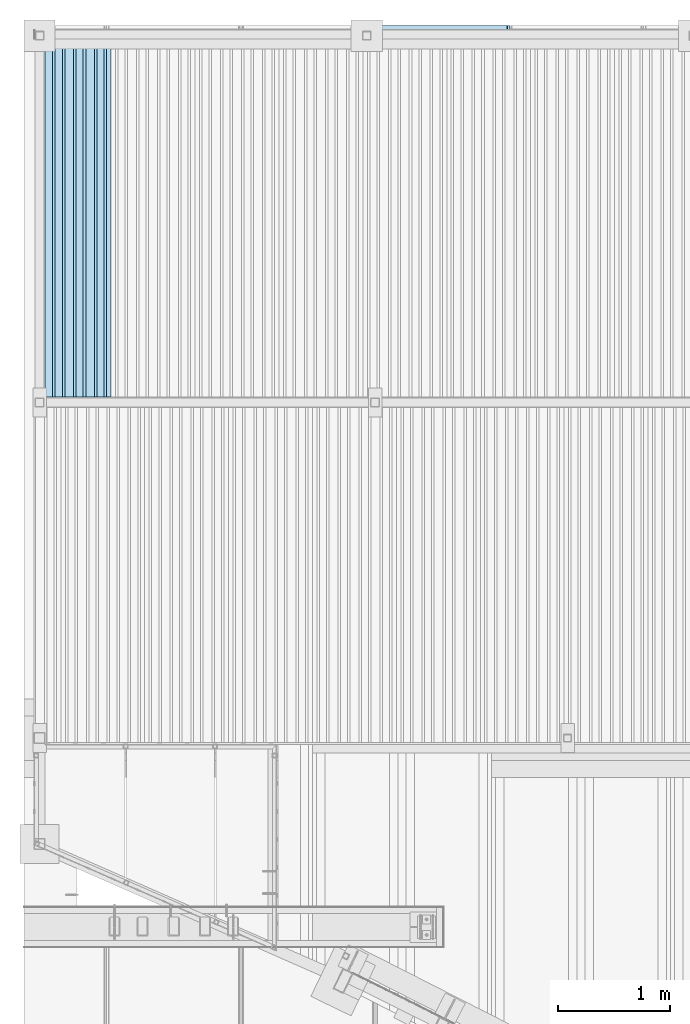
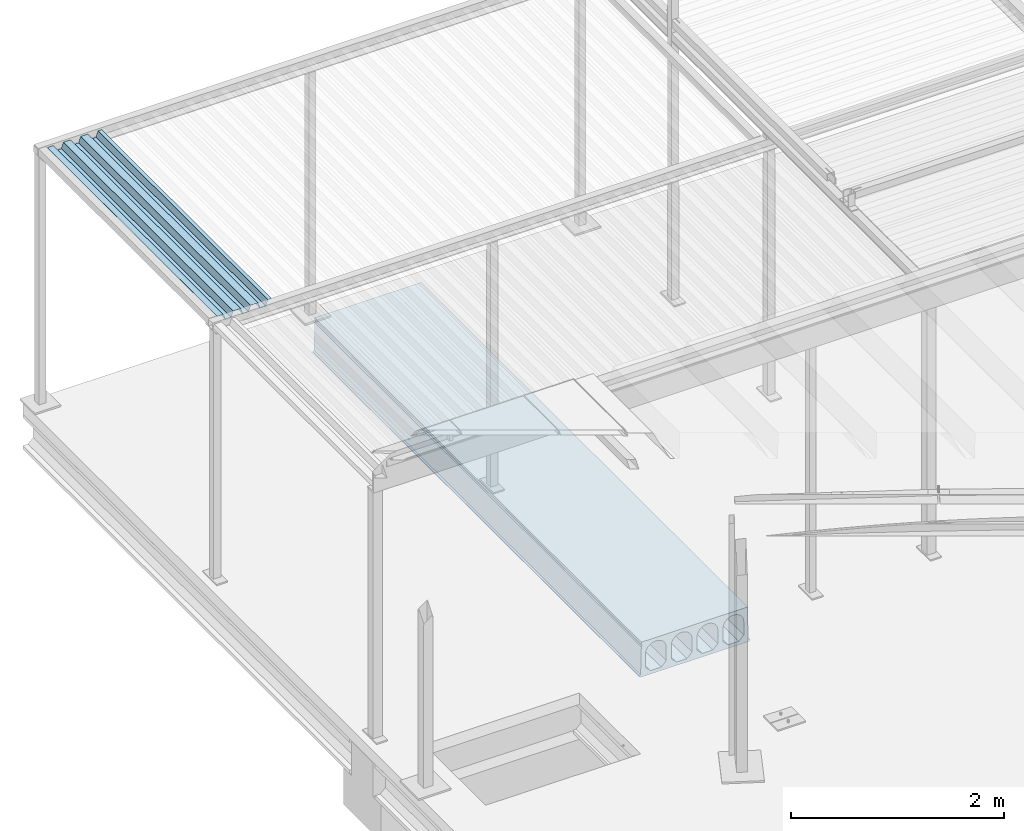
# One storey, part 80 of 98: 2 slabs.
"""IFC2X3 building model written with IfcOpenShell, lengths in millimetres."""

from ifc_helpers import new_model, entity, si_unit, converted_unit, derived_unit, direction, frame, origin_with_axes, place, context, subcontext, project, spatial, faceted_brep, material, type_object, element, save


model = new_model("IFC2X3")

# Units and contexts
model_context = context("Model", 3, precision=0.01, world=frame((0.0, 4.29681676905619e-09, 0.0)), true_north=direction((4.01073788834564e-13, 1.0)))
plan_context = context("Plan", 3, precision=0.01, world=frame((0.0, 4.29681676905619e-09, 0.0)), true_north=direction((4.01073788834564e-13, 1.0)))
body_context = subcontext(model_context, "Body", "Model", "MODEL_VIEW")
ifc_project = project(units=[converted_unit("PLANEANGLEUNIT", "DEGREE", entity("IfcPositiveLengthMeasure", 0.0174532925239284), si_unit("PLANEANGLEUNIT", "RADIAN"), dimensions=[0, 0, 0, 0, 0, 0, 0]), si_unit("AREAUNIT", "SQUARE_METRE"), si_unit("LENGTHUNIT", "METRE", prefix="MILLI"), si_unit("MASSUNIT", "GRAM", prefix="KILO"), si_unit("POWERUNIT", "WATT"), si_unit("PRESSUREUNIT", "PASCAL"), si_unit("FORCEUNIT", "NEWTON", prefix="KILO"), si_unit("ELECTRICCURRENTUNIT", "AMPERE"), si_unit("THERMODYNAMICTEMPERATUREUNIT", "DEGREE_CELSIUS"), si_unit("TIMEUNIT", "SECOND"), si_unit("VOLUMEUNIT", "CUBIC_METRE"), derived_unit("LINEARVELOCITYUNIT", [(si_unit("LENGTHUNIT", "METRE"), 1), (si_unit("TIMEUNIT", "SECOND"), -1)]), derived_unit("VOLUMETRICFLOWRATEUNIT", [(si_unit("VOLUMEUNIT", "CUBIC_METRE"), 1), (si_unit("TIMEUNIT", "SECOND"), -1)]), derived_unit("THERMALTRANSMITTANCEUNIT", [(si_unit("POWERUNIT", "WATT"), 1), (si_unit("THERMODYNAMICTEMPERATUREUNIT", "KELVIN"), -1), (si_unit("AREAUNIT", "SQUARE_METRE"), -1)])], contexts=[model_context, plan_context])

# Site, building, storey
site_placement = place(None, frame((0.0, -4.29681676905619e-09, 0.0), z_axis=(0.0, 0.0, 1.0), x_axis=(1.0, 0.0, 0.0)))
site = spatial("IfcSite", under=ifc_project, at=site_placement, Name="Gardermoen", CompositionType="ELEMENT")
building_placement = place(site_placement, frame((0.0, 4.29681676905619e-09, 0.0), z_axis=(0.0, 0.0, 1.0), x_axis=(1.0, 0.0, 0.0)))
building = spatial("IfcBuilding", under=site, at=building_placement, Name="TS", CompositionType="ELEMENT")
storey_placement = place(building_placement, origin_with_axes())
storey = spatial("IfcBuildingStorey", under=building, at=storey_placement, Name="D", CompositionType="ELEMENT", Elevation=0.0)

# Slabs
slab_type_1 = type_object("IfcSlabType", Name="HD400", PredefinedType="NOTDEFINED")
slab_1_placement = place(storey_placement, frame((517599.999413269, 414739.991879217, 203600.0), z_axis=(0.0, 0.0, 1.0), x_axis=(0.0, 1.0, 0.0)))
element("IfcSlab", 1, at=slab_1_placement, inside=storey, type_object=slab_type_1, Name="HULLDEKKE", ObjectType="HD400", PredefinedType="FLOOR", context=body_context, shape_type="Brep", body=[
    faceted_brep([(6130.19957419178, 600.0, -190.0), (6130.19957419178, 600.0, -180.0), (0.0, 600.0, -180.0), (0.0, 600.0, -190.0), (6130.19957419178, 585.0, -170.0), (0.0, 585.0, -170.0), (6130.19957419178, 577.5, 145.0), (0.0, 577.5, 145.0), (6130.19957419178, 570.0, 160.0), (0.0, 570.0, 160.0), (6130.19957419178, 577.5, 175.0), (0.0, 577.5, 175.0), (6130.19957419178, 577.5, 200.0), (0.0, 577.5, 200.0), (6130.19957419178, -577.5, 200.0), (0.0, -577.5, 200.0), (6130.19957419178, -577.5, 175.0), (0.0, -577.5, 175.0), (6130.19957419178, -570.0, 160.0), (0.0, -570.0, 160.0), (6130.19957419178, -577.5, 145.0), (0.0, -577.5, 145.0), (6130.19957419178, -585.0, -170.0), (0.0, -585.0, -170.0), (6130.19957419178, -600.0, -180.0), (0.0, -600.0, -180.0), (6130.19957419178, -600.0, -190.0), (0.0, -600.0, -190.0), (6130.19957419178, -583.380004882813, -200.0), (0.0, -583.380004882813, -200.0), (6130.19957419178, 583.380004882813, -200.0), (0.0, 583.380004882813, -200.0), (6130.19957419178, -362.5, -160.0), (6130.19957419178, -477.5, -160.0), (0.0, -477.5, -160.0), (0.0, -362.5, -160.0), (6130.19957419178, -532.5, -105.0), (0.0, -532.5, -105.0), (6130.19957419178, -532.5, 47.5), (0.0, -532.5, 47.5), (6130.19957419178, -532.115755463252, 56.7901763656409), (0.0, -532.115755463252, 56.7901763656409), (6130.19957419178, -530.965646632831, 66.0168914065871), (0.0, -530.965646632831, 66.0168914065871), (6130.19957419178, -529.057529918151, 75.1171173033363), (0.0, -529.057529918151, 75.1171173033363), (6130.19957419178, -526.404439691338, 84.028690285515), (0.0, -526.404439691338, 84.028690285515), (6130.19957419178, -523.024499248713, 92.6907352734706), (0.0, -523.024499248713, 92.6907352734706), (6130.19957419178, -518.940797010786, 101.044081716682), (0.0, -518.940797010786, 101.044081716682), (6130.19957419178, -514.181228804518, 109.031667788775), (0.0, -514.181228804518, 109.031667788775), (6130.19957419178, -508.778307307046, 116.598930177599), (0.0, -508.778307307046, 116.598930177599), (6130.19957419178, -502.768939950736, 123.694176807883), (0.0, -502.768939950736, 123.694176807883), (6130.19957419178, -496.194176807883, 130.268939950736), (0.0, -496.194176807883, 130.268939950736), (6130.19957419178, -489.098930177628, 136.278307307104), (0.0, -489.098930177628, 136.278307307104), (6130.19957419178, -481.531667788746, 141.681228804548), (0.0, -481.531667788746, 141.681228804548), (6130.19957419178, -473.544081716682, 146.440797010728), (0.0, -473.544081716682, 146.440797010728), (6130.19957419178, -465.190735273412, 150.524499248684), (0.0, -465.190735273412, 150.524499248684), (6130.19957419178, -456.528690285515, 153.904439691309), (0.0, -456.528690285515, 153.904439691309), (6130.19957419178, -447.617117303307, 156.55752991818), (0.0, -447.617117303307, 156.55752991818), (6130.19957419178, -438.516891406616, 158.465646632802), (0.0, -438.516891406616, 158.465646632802), (6130.19957419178, -429.290176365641, 159.615755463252), (0.0, -429.290176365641, 159.615755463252), (6130.19957419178, -420.0, 160.0), (0.0, -420.0, 160.0), (6130.19957419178, -410.709823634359, 159.615755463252), (0.0, -410.709823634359, 159.615755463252), (6130.19957419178, -401.483108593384, 158.465646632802), (0.0, -401.483108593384, 158.465646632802), (6130.19957419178, -392.382882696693, 156.55752991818), (0.0, -392.382882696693, 156.55752991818), (6130.19957419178, -383.471309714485, 153.904439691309), (0.0, -383.471309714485, 153.904439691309), (6130.19957419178, -374.809264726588, 150.524499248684), (0.0, -374.809264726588, 150.524499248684), (6130.19957419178, -366.455918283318, 146.440797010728), (0.0, -366.455918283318, 146.440797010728), (6130.19957419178, -358.468332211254, 141.681228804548), (0.0, -358.468332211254, 141.681228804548), (6130.19957419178, -350.901069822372, 136.278307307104), (0.0, -350.901069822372, 136.278307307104), (6130.19957419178, -343.805823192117, 130.268939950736), (0.0, -343.805823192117, 130.268939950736), (6130.19957419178, -337.231060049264, 123.694176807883), (0.0, -337.231060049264, 123.694176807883), (6130.19957419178, -331.221692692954, 116.598930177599), (0.0, -331.221692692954, 116.598930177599), (6130.19957419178, -325.818771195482, 109.031667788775), (0.0, -325.818771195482, 109.031667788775), (6130.19957419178, -321.059202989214, 101.044081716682), (0.0, -321.059202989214, 101.044081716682), (6130.19957419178, -316.975500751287, 92.6907352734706), (0.0, -316.975500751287, 92.6907352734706), (6130.19957419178, -313.595560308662, 84.028690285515), (0.0, -313.595560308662, 84.028690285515), (6130.19957419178, -310.942470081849, 75.1171173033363), (0.0, -310.942470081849, 75.1171173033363), (6130.19957419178, -309.034353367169, 66.0168914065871), (0.0, -309.034353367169, 66.0168914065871), (6130.19957419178, -307.884244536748, 56.7901763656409), (0.0, -307.884244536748, 56.7901763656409), (6130.19957419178, -307.5, 47.5), (0.0, -307.5, 47.5), (6130.19957419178, -307.5, -105.0), (0.0, -307.5, -105.0), (6130.19957419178, -82.5, -160.0), (6130.19957419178, -197.5, -160.0), (0.0, -197.5, -160.0), (0.0, -82.5, -160.0), (6130.19957419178, -252.5, -105.0), (0.0, -252.5, -105.0), (6130.19957419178, -252.5, 47.5), (0.0, -252.5, 47.5), (6130.19957419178, -252.115755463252, 56.7901763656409), (0.0, -252.115755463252, 56.7901763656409), (6130.19957419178, -250.965646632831, 66.0168914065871), (0.0, -250.965646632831, 66.0168914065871), (6130.19957419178, -249.057529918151, 75.1171173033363), (0.0, -249.057529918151, 75.1171173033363), (6130.19957419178, -246.404439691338, 84.028690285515), (0.0, -246.404439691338, 84.028690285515), (6130.19957419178, -243.024499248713, 92.6907352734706), (0.0, -243.024499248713, 92.6907352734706), (6130.19957419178, -238.940797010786, 101.044081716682), (0.0, -238.940797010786, 101.044081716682), (6130.19957419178, -234.181228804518, 109.031667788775), (0.0, -234.181228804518, 109.031667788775), (6130.19957419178, -228.778307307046, 116.598930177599), (0.0, -228.778307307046, 116.598930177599), (6130.19957419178, -222.768939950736, 123.694176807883), (0.0, -222.768939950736, 123.694176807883), (6130.19957419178, -216.194176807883, 130.268939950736), (0.0, -216.194176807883, 130.268939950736), (6130.19957419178, -209.098930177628, 136.278307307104), (0.0, -209.098930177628, 136.278307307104), (6130.19957419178, -201.531667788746, 141.681228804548), (0.0, -201.531667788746, 141.681228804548), (6130.19957419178, -193.544081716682, 146.440797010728), (0.0, -193.544081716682, 146.440797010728), (6130.19957419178, -185.190735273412, 150.524499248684), (0.0, -185.190735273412, 150.524499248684), (6130.19957419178, -176.528690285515, 153.904439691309), (0.0, -176.528690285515, 153.904439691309), (6130.19957419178, -167.617117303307, 156.55752991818), (0.0, -167.617117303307, 156.55752991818), (6130.19957419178, -158.516891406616, 158.465646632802), (0.0, -158.516891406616, 158.465646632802), (6130.19957419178, -149.290176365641, 159.615755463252), (0.0, -149.290176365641, 159.615755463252), (6130.19957419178, -140.0, 160.0), (0.0, -140.0, 160.0), (6130.19957419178, -130.709823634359, 159.615755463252), (0.0, -130.709823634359, 159.615755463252), (6130.19957419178, -121.483108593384, 158.465646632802), (0.0, -121.483108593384, 158.465646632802), (6130.19957419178, -112.382882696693, 156.55752991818), (0.0, -112.382882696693, 156.55752991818), (6130.19957419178, -103.471309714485, 153.904439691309), (0.0, -103.471309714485, 153.904439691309), (6130.19957419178, -94.8092647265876, 150.524499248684), (0.0, -94.8092647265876, 150.524499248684), (6130.19957419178, -86.4559182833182, 146.440797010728), (0.0, -86.4559182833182, 146.440797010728), (6130.19957419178, -78.4683322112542, 141.681228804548), (0.0, -78.4683322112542, 141.681228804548), (6130.19957419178, -70.9010698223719, 136.278307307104), (0.0, -70.9010698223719, 136.278307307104), (6130.19957419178, -63.8058231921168, 130.268939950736), (0.0, -63.8058231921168, 130.268939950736), (6130.19957419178, -57.2310600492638, 123.694176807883), (0.0, -57.2310600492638, 123.694176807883), (6130.19957419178, -51.2216926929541, 116.598930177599), (0.0, -51.2216926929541, 116.598930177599), (6130.19957419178, -45.8187711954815, 109.031667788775), (0.0, -45.8187711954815, 109.031667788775), (6130.19957419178, -41.0592029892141, 101.044081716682), (0.0, -41.0592029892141, 101.044081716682), (6130.19957419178, -36.9755007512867, 92.6907352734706), (0.0, -36.9755007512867, 92.6907352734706), (6130.19957419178, -33.5955603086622, 84.028690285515), (0.0, -33.5955603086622, 84.028690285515), (6130.19957419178, -30.942470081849, 75.1171173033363), (0.0, -30.942470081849, 75.1171173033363), (6130.19957419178, -29.0343533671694, 66.0168914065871), (0.0, -29.0343533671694, 66.0168914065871), (6130.19957419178, -27.8842445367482, 56.7901763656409), (0.0, -27.8842445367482, 56.7901763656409), (6130.19957419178, -27.5, 47.5), (0.0, -27.5, 47.5), (6130.19957419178, -27.5, -105.0), (0.0, -27.5, -105.0), (6130.19957419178, 197.5, -160.0), (6130.19957419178, 82.5, -160.0), (0.0, 82.5, -160.0), (0.0, 197.5, -160.0), (6130.19957419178, 27.5, -105.0), (0.0, 27.5, -105.0), (6130.19957419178, 27.5, 47.5), (0.0, 27.5, 47.5), (6130.19957419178, 27.8842445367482, 56.7901763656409), (0.0, 27.8842445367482, 56.7901763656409), (6130.19957419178, 29.0343533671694, 66.0168914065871), (0.0, 29.0343533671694, 66.0168914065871), (6130.19957419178, 30.942470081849, 75.1171173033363), (0.0, 30.942470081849, 75.1171173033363), (6130.19957419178, 33.5955603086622, 84.028690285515), (0.0, 33.5955603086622, 84.028690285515), (6130.19957419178, 36.9755007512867, 92.6907352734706), (0.0, 36.9755007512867, 92.6907352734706), (6130.19957419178, 41.0592029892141, 101.044081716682), (0.0, 41.0592029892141, 101.044081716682), (6130.19957419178, 45.8187711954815, 109.031667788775), (0.0, 45.8187711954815, 109.031667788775), (6130.19957419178, 51.2216926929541, 116.598930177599), (0.0, 51.2216926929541, 116.598930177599), (6130.19957419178, 57.2310600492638, 123.694176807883), (0.0, 57.2310600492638, 123.694176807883), (6130.19957419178, 63.8058231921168, 130.268939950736), (0.0, 63.8058231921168, 130.268939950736), (6130.19957419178, 70.9010698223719, 136.278307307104), (0.0, 70.9010698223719, 136.278307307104), (6130.19957419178, 78.4683322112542, 141.681228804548), (0.0, 78.4683322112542, 141.681228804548), (6130.19957419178, 86.4559182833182, 146.440797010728), (0.0, 86.4559182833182, 146.440797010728), (6130.19957419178, 94.8092647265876, 150.524499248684), (0.0, 94.8092647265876, 150.524499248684), (6130.19957419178, 103.471309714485, 153.904439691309), (0.0, 103.471309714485, 153.904439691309), (6130.19957419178, 112.382882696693, 156.55752991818), (0.0, 112.382882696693, 156.55752991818), (6130.19957419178, 121.483108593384, 158.465646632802), (0.0, 121.483108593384, 158.465646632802), (6130.19957419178, 130.709823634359, 159.615755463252), (0.0, 130.709823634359, 159.615755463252), (6130.19957419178, 140.0, 160.0), (0.0, 140.0, 160.0), (6130.19957419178, 149.290176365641, 159.615755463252), (0.0, 149.290176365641, 159.615755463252), (6130.19957419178, 158.516891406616, 158.465646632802), (0.0, 158.516891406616, 158.465646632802), (6130.19957419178, 167.617117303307, 156.55752991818), (0.0, 167.617117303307, 156.55752991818), (6130.19957419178, 176.528690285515, 153.904439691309), (0.0, 176.528690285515, 153.904439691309), (6130.19957419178, 185.190735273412, 150.524499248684), (0.0, 185.190735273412, 150.524499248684), (6130.19957419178, 193.544081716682, 146.440797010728), (0.0, 193.544081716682, 146.440797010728), (6130.19957419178, 201.531667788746, 141.681228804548), (0.0, 201.531667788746, 141.681228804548), (6130.19957419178, 209.098930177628, 136.278307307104), (0.0, 209.098930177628, 136.278307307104), (6130.19957419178, 216.194176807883, 130.268939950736), (0.0, 216.194176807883, 130.268939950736), (6130.19957419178, 222.768939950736, 123.694176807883), (0.0, 222.768939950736, 123.694176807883), (6130.19957419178, 228.778307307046, 116.598930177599), (0.0, 228.778307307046, 116.598930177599), (6130.19957419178, 234.181228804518, 109.031667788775), (0.0, 234.181228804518, 109.031667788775), (6130.19957419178, 238.940797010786, 101.044081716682), (0.0, 238.940797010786, 101.044081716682), (6130.19957419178, 243.024499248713, 92.6907352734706), (0.0, 243.024499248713, 92.6907352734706), (6130.19957419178, 246.404439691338, 84.028690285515), (0.0, 246.404439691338, 84.028690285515), (6130.19957419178, 249.057529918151, 75.1171173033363), (0.0, 249.057529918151, 75.1171173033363), (6130.19957419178, 250.965646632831, 66.0168914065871), (0.0, 250.965646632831, 66.0168914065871), (6130.19957419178, 252.115755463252, 56.7901763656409), (0.0, 252.115755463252, 56.7901763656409), (6130.19957419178, 252.5, 47.5), (0.0, 252.5, 47.5), (6130.19957419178, 252.5, -105.0), (0.0, 252.5, -105.0), (6130.19957419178, 477.5, -160.0), (6130.19957419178, 362.5, -160.0), (0.0, 362.5, -160.0), (0.0, 477.5, -160.0), (6130.19957419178, 307.5, -105.0), (0.0, 307.5, -105.0), (6130.19957419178, 307.5, 47.5), (0.0, 307.5, 47.5), (6130.19957419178, 307.884244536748, 56.7901763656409), (0.0, 307.884244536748, 56.7901763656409), (6130.19957419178, 309.034353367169, 66.0168914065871), (0.0, 309.034353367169, 66.0168914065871), (6130.19957419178, 310.942470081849, 75.1171173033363), (0.0, 310.942470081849, 75.1171173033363), (6130.19957419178, 313.595560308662, 84.028690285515), (0.0, 313.595560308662, 84.028690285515), (6130.19957419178, 316.975500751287, 92.6907352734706), (0.0, 316.975500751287, 92.6907352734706), (6130.19957419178, 321.059202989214, 101.044081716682), (0.0, 321.059202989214, 101.044081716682), (6130.19957419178, 325.818771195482, 109.031667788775), (0.0, 325.818771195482, 109.031667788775), (6130.19957419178, 331.221692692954, 116.598930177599), (0.0, 331.221692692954, 116.598930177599), (6130.19957419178, 337.231060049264, 123.694176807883), (0.0, 337.231060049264, 123.694176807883), (6130.19957419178, 343.805823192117, 130.268939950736), (0.0, 343.805823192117, 130.268939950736), (6130.19957419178, 350.901069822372, 136.278307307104), (0.0, 350.901069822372, 136.278307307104), (6130.19957419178, 358.468332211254, 141.681228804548), (0.0, 358.468332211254, 141.681228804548), (6130.19957419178, 366.455918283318, 146.440797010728), (0.0, 366.455918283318, 146.440797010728), (6130.19957419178, 374.809264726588, 150.524499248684), (0.0, 374.809264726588, 150.524499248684), (6130.19957419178, 383.471309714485, 153.904439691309), (0.0, 383.471309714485, 153.904439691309), (6130.19957419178, 392.382882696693, 156.55752991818), (0.0, 392.382882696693, 156.55752991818), (6130.19957419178, 401.483108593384, 158.465646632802), (0.0, 401.483108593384, 158.465646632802), (6130.19957419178, 410.709823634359, 159.615755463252), (0.0, 410.709823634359, 159.615755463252), (6130.19957419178, 420.0, 160.0), (0.0, 420.0, 160.0), (6130.19957419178, 429.290176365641, 159.615755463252), (0.0, 429.290176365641, 159.615755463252), (6130.19957419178, 438.516891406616, 158.465646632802), (0.0, 438.516891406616, 158.465646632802), (6130.19957419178, 447.617117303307, 156.55752991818), (0.0, 447.617117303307, 156.55752991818), (6130.19957419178, 456.528690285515, 153.904439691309), (0.0, 456.528690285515, 153.904439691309), (6130.19957419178, 465.190735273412, 150.524499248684), (0.0, 465.190735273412, 150.524499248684), (6130.19957419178, 473.544081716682, 146.440797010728), (0.0, 473.544081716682, 146.440797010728), (6130.19957419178, 481.531667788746, 141.681228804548), (0.0, 481.531667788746, 141.681228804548), (6130.19957419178, 489.098930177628, 136.278307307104), (0.0, 489.098930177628, 136.278307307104), (6130.19957419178, 496.194176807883, 130.268939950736), (0.0, 496.194176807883, 130.268939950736), (6130.19957419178, 502.768939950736, 123.694176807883), (0.0, 502.768939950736, 123.694176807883), (6130.19957419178, 508.778307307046, 116.598930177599), (0.0, 508.778307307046, 116.598930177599), (6130.19957419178, 514.181228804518, 109.031667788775), (0.0, 514.181228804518, 109.031667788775), (6130.19957419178, 518.940797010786, 101.044081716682), (0.0, 518.940797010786, 101.044081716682), (6130.19957419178, 523.024499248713, 92.6907352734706), (0.0, 523.024499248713, 92.6907352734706), (6130.19957419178, 526.404439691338, 84.028690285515), (0.0, 526.404439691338, 84.028690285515), (6130.19957419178, 529.057529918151, 75.1171173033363), (0.0, 529.057529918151, 75.1171173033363), (6130.19957419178, 530.965646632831, 66.0168914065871), (0.0, 530.965646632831, 66.0168914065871), (6130.19957419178, 532.115755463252, 56.7901763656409), (0.0, 532.115755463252, 56.7901763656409), (6130.19957419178, 532.5, 47.5), (0.0, 532.5, 47.5), (6130.19957419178, 532.5, -105.0), (0.0, 532.5, -105.0)], [[[0, 1, 2, 3]], [[1, 4, 5, 2]], [[4, 6, 7, 5]], [[6, 8, 9, 7]], [[8, 10, 11, 9]], [[10, 12, 13, 11]], [[12, 14, 15, 13]], [[14, 16, 17, 15]], [[16, 18, 19, 17]], [[18, 20, 21, 19]], [[20, 22, 23, 21]], [[22, 24, 25, 23]], [[24, 26, 27, 25]], [[26, 28, 29, 27]], [[28, 30, 31, 29]], [[30, 0, 3, 31]], [[32, 33, 34, 35]], [[33, 36, 37, 34]], [[36, 38, 39, 37]], [[38, 40, 41, 39]], [[40, 42, 43, 41]], [[42, 44, 45, 43]], [[44, 46, 47, 45]], [[46, 48, 49, 47]], [[48, 50, 51, 49]], [[50, 52, 53, 51]], [[52, 54, 55, 53]], [[54, 56, 57, 55]], [[56, 58, 59, 57]], [[58, 60, 61, 59]], [[60, 62, 63, 61]], [[62, 64, 65, 63]], [[64, 66, 67, 65]], [[66, 68, 69, 67]], [[68, 70, 71, 69]], [[70, 72, 73, 71]], [[72, 74, 75, 73]], [[74, 76, 77, 75]], [[76, 78, 79, 77]], [[78, 80, 81, 79]], [[80, 82, 83, 81]], [[82, 84, 85, 83]], [[84, 86, 87, 85]], [[86, 88, 89, 87]], [[88, 90, 91, 89]], [[90, 92, 93, 91]], [[92, 94, 95, 93]], [[94, 96, 97, 95]], [[96, 98, 99, 97]], [[98, 100, 101, 99]], [[100, 102, 103, 101]], [[102, 104, 105, 103]], [[104, 106, 107, 105]], [[106, 108, 109, 107]], [[108, 110, 111, 109]], [[110, 112, 113, 111]], [[112, 114, 115, 113]], [[114, 116, 117, 115]], [[116, 32, 35, 117]], [[118, 119, 120, 121]], [[119, 122, 123, 120]], [[122, 124, 125, 123]], [[124, 126, 127, 125]], [[126, 128, 129, 127]], [[128, 130, 131, 129]], [[130, 132, 133, 131]], [[132, 134, 135, 133]], [[134, 136, 137, 135]], [[136, 138, 139, 137]], [[138, 140, 141, 139]], [[140, 142, 143, 141]], [[142, 144, 145, 143]], [[144, 146, 147, 145]], [[146, 148, 149, 147]], [[148, 150, 151, 149]], [[150, 152, 153, 151]], [[152, 154, 155, 153]], [[154, 156, 157, 155]], [[156, 158, 159, 157]], [[158, 160, 161, 159]], [[160, 162, 163, 161]], [[162, 164, 165, 163]], [[164, 166, 167, 165]], [[166, 168, 169, 167]], [[168, 170, 171, 169]], [[170, 172, 173, 171]], [[172, 174, 175, 173]], [[174, 176, 177, 175]], [[176, 178, 179, 177]], [[178, 180, 181, 179]], [[180, 182, 183, 181]], [[182, 184, 185, 183]], [[184, 186, 187, 185]], [[186, 188, 189, 187]], [[188, 190, 191, 189]], [[190, 192, 193, 191]], [[192, 194, 195, 193]], [[194, 196, 197, 195]], [[196, 198, 199, 197]], [[198, 200, 201, 199]], [[200, 202, 203, 201]], [[202, 118, 121, 203]], [[204, 205, 206, 207]], [[205, 208, 209, 206]], [[208, 210, 211, 209]], [[210, 212, 213, 211]], [[212, 214, 215, 213]], [[214, 216, 217, 215]], [[216, 218, 219, 217]], [[218, 220, 221, 219]], [[220, 222, 223, 221]], [[222, 224, 225, 223]], [[224, 226, 227, 225]], [[226, 228, 229, 227]], [[228, 230, 231, 229]], [[230, 232, 233, 231]], [[232, 234, 235, 233]], [[234, 236, 237, 235]], [[236, 238, 239, 237]], [[238, 240, 241, 239]], [[240, 242, 243, 241]], [[242, 244, 245, 243]], [[244, 246, 247, 245]], [[246, 248, 249, 247]], [[248, 250, 251, 249]], [[250, 252, 253, 251]], [[252, 254, 255, 253]], [[254, 256, 257, 255]], [[256, 258, 259, 257]], [[258, 260, 261, 259]], [[260, 262, 263, 261]], [[262, 264, 265, 263]], [[264, 266, 267, 265]], [[266, 268, 269, 267]], [[268, 270, 271, 269]], [[270, 272, 273, 271]], [[272, 274, 275, 273]], [[274, 276, 277, 275]], [[276, 278, 279, 277]], [[278, 280, 281, 279]], [[280, 282, 283, 281]], [[282, 284, 285, 283]], [[284, 286, 287, 285]], [[286, 288, 289, 287]], [[288, 204, 207, 289]], [[290, 291, 292, 293]], [[291, 294, 295, 292]], [[294, 296, 297, 295]], [[296, 298, 299, 297]], [[298, 300, 301, 299]], [[300, 302, 303, 301]], [[302, 304, 305, 303]], [[304, 306, 307, 305]], [[306, 308, 309, 307]], [[308, 310, 311, 309]], [[310, 312, 313, 311]], [[312, 314, 315, 313]], [[314, 316, 317, 315]], [[316, 318, 319, 317]], [[318, 320, 321, 319]], [[320, 322, 323, 321]], [[322, 324, 325, 323]], [[324, 326, 327, 325]], [[326, 328, 329, 327]], [[328, 330, 331, 329]], [[330, 332, 333, 331]], [[332, 334, 335, 333]], [[334, 336, 337, 335]], [[336, 338, 339, 337]], [[338, 340, 341, 339]], [[340, 342, 343, 341]], [[342, 344, 345, 343]], [[344, 346, 347, 345]], [[346, 348, 349, 347]], [[348, 350, 351, 349]], [[350, 352, 353, 351]], [[352, 354, 355, 353]], [[354, 356, 357, 355]], [[356, 358, 359, 357]], [[358, 360, 361, 359]], [[360, 362, 363, 361]], [[362, 364, 365, 363]], [[364, 366, 367, 365]], [[366, 368, 369, 367]], [[368, 370, 371, 369]], [[370, 372, 373, 371]], [[372, 374, 375, 373]], [[374, 290, 293, 375]], [[3, 2, 5, 7, 9, 11, 13, 15, 17, 19, 21, 23, 25, 27, 29, 31], [293, 292, 295, 297, 299, 301, 303, 305, 307, 309, 311, 313, 315, 317, 319, 321, 323, 325, 327, 329, 331, 333, 335, 337, 339, 341, 343, 345, 347, 349, 351, 353, 355, 357, 359, 361, 363, 365, 367, 369, 371, 373, 375], [207, 206, 209, 211, 213, 215, 217, 219, 221, 223, 225, 227, 229, 231, 233, 235, 237, 239, 241, 243, 245, 247, 249, 251, 253, 255, 257, 259, 261, 263, 265, 267, 269, 271, 273, 275, 277, 279, 281, 283, 285, 287, 289], [121, 120, 123, 125, 127, 129, 131, 133, 135, 137, 139, 141, 143, 145, 147, 149, 151, 153, 155, 157, 159, 161, 163, 165, 167, 169, 171, 173, 175, 177, 179, 181, 183, 185, 187, 189, 191, 193, 195, 197, 199, 201, 203], [35, 34, 37, 39, 41, 43, 45, 47, 49, 51, 53, 55, 57, 59, 61, 63, 65, 67, 69, 71, 73, 75, 77, 79, 81, 83, 85, 87, 89, 91, 93, 95, 97, 99, 101, 103, 105, 107, 109, 111, 113, 115, 117]], [[30, 28, 26, 24, 22, 20, 18, 16, 14, 12, 10, 8, 6, 4, 1, 0], [116, 114, 112, 110, 108, 106, 104, 102, 100, 98, 96, 94, 92, 90, 88, 86, 84, 82, 80, 78, 76, 74, 72, 70, 68, 66, 64, 62, 60, 58, 56, 54, 52, 50, 48, 46, 44, 42, 40, 38, 36, 33, 32], [202, 200, 198, 196, 194, 192, 190, 188, 186, 184, 182, 180, 178, 176, 174, 172, 170, 168, 166, 164, 162, 160, 158, 156, 154, 152, 150, 148, 146, 144, 142, 140, 138, 136, 134, 132, 130, 128, 126, 124, 122, 119, 118], [288, 286, 284, 282, 280, 278, 276, 274, 272, 270, 268, 266, 264, 262, 260, 258, 256, 254, 252, 250, 248, 246, 244, 242, 240, 238, 236, 234, 232, 230, 228, 226, 224, 222, 220, 218, 216, 214, 212, 210, 208, 205, 204], [374, 372, 370, 368, 366, 364, 362, 360, 358, 356, 354, 352, 350, 348, 346, 344, 342, 340, 338, 336, 334, 332, 330, 328, 326, 324, 322, 320, 318, 316, 314, 312, 310, 308, 306, 304, 302, 300, 298, 296, 294, 291, 290]]], orient=[[False], [False], [False], [False], [False], [False], [False], [False], [False], [False], [False], [False], [False], [False], [False], [False], [False], [False], [False], [False], [False], [False], [False], [False], [False], [False], [False], [False], [False], [False], [False], [False], [False], [False], [False], [False], [False], [False], [False], [False], [False], [False], [False], [False], [False], [False], [False], [False], [False], [False], [False], [False], [False], [False], [False], [False], [False], [False], [False], [False], [False], [False], [False], [False], [False], [False], [False], [False], [False], [False], [False], [False], [False], [False], [False], [False], [False], [False], [False], [False], [False], [False], [False], [False], [False], [False], [False], [False], [False], [False], [False], [False], [False], [False], [False], [False], [False], [False], [False], [False], [False], [False], [False], [False], [False], [False], [False], [False], [False], [False], [False], [False], [False], [False], [False], [False], [False], [False], [False], [False], [False], [False], [False], [False], [False], [False], [False], [False], [False], [False], [False], [False], [False], [False], [False], [False], [False], [False], [False], [False], [False], [False], [False], [False], [False], [False], [False], [False], [False], [False], [False], [False], [False], [False], [False], [False], [False], [False], [False], [False], [False], [False], [False], [False], [False], [False], [False], [False], [False], [False], [False], [False], [False], [False], [False], [False], [False], [False], [False], [False], [False], [False], [False], [False], [False], [False], [False], [False], [False, False, False, False, False], [False, False, False, False, False]]),
])
ifc_material = material(Name="STEEL/S355")
slab_type_2 = type_object("IfcSlabType", Name="PLANJA70", PredefinedType="NOTDEFINED")
slab_2_placement = place(storey_placement, frame((514265.0, 417549.960071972, 206834.149718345), z_axis=(0.0, 0.0, 1.0), x_axis=(0.0, 1.0, 0.0)))
element("IfcSlab", 2, at=slab_2_placement, inside=storey, type_object=slab_type_2, material=ifc_material, Name="STÅLTAK", ObjectType="PLANJA70", PredefinedType="FLOOR", context=body_context, shape_type="Brep", body=[
    faceted_brep([(0.0, 126.0, -34.1500015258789), (0.0, 148.519882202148, 33.1500015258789), (3189.99519654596, 148.519882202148, 33.1500015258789), (3189.99519654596, 126.0, -34.1500015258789), (0.0, 61.5, -34.1500015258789), (3189.99519654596, 61.5, -34.1500015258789), (0.0, 38.9801177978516, 33.1500015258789), (3189.99519654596, 38.9801177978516, 33.1500015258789), (0.0, -38.9801177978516, 33.1500015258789), (3189.99519654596, -38.9801177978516, 33.1500015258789), (0.0, -61.5, -34.1500015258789), (3189.99519654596, -61.5, -34.1500015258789), (0.0, -126.0, -34.1500015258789), (3189.99519654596, -126.0, -34.1500015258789), (0.0, -148.519882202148, 33.1500015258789), (3189.99519654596, -148.519882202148, 33.1500015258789), (0.0, -226.480117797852, 33.1500015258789), (3189.99519654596, -226.480117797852, 33.1500015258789), (0.0, -249.0, -34.1500015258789), (3189.99519654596, -249.0, -34.1500015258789), (0.0, -313.5, -34.1500015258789), (3189.99519654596, -313.5, -34.1500015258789), (0.0, -335.789306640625, 32.1500015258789), (3189.99519654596, -335.789306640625, 32.1500015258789), (0.0, -375.0, 32.1500015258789), (3189.99519654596, -375.0, 32.1500015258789), (0.0, -375.0, 33.1500015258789), (3189.99519654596, -375.0, 33.1500015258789), (0.0, -335.070495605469, 33.1500015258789), (3189.99519654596, -335.070495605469, 33.1500015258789), (0.0, -312.781188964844, -33.1500015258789), (3189.99519654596, -312.781188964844, -33.1500015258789), (0.0, -249.719879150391, -33.1500015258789), (3189.99519654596, -249.719879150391, -33.1500015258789), (0.0, -227.199996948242, 34.1500015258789), (3189.99519654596, -227.199996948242, 34.1500015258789), (0.0, -147.800003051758, 34.1500015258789), (3189.99519654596, -147.800003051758, 34.1500015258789), (0.0, -125.280120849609, -33.1500015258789), (3189.99519654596, -125.280120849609, -33.1500015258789), (0.0, -62.2198791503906, -33.1500015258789), (3189.99519654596, -62.2198791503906, -33.1500015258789), (0.0, -39.7000007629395, 34.1500015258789), (3189.99519654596, -39.7000007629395, 34.1500015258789), (0.0, 39.7000007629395, 34.1500015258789), (3189.99519654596, 39.7000007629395, 34.1500015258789), (0.0, 62.2198791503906, -33.1500015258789), (3189.99519654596, 62.2198791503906, -33.1500015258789), (0.0, 125.280120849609, -33.1500015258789), (3189.99519654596, 125.280120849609, -33.1500015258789), (0.0, 147.800003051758, 34.1500015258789), (3189.99519654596, 147.800003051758, 34.1500015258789), (3189.99519654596, 215.0, 34.1500015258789), (0.0, 215.0, 34.1500015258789), (0.0, 215.0, 33.1500015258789), (3189.99519654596, 215.0, 33.1500015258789)], [[[0, 1, 2, 3]], [[4, 0, 3, 5]], [[6, 4, 5, 7]], [[8, 6, 7, 9]], [[10, 8, 9, 11]], [[12, 10, 11, 13]], [[14, 12, 13, 15]], [[16, 14, 15, 17]], [[18, 16, 17, 19]], [[20, 18, 19, 21]], [[22, 20, 21, 23]], [[24, 22, 23, 25]], [[26, 24, 25, 27]], [[28, 26, 27, 29]], [[30, 28, 29, 31]], [[32, 30, 31, 33]], [[34, 32, 33, 35]], [[36, 34, 35, 37]], [[38, 36, 37, 39]], [[40, 38, 39, 41]], [[42, 40, 41, 43]], [[44, 42, 43, 45]], [[46, 44, 45, 47]], [[48, 46, 47, 49]], [[50, 48, 49, 51]], [[50, 51, 52, 53]], [[1, 0, 4, 6, 8, 10, 12, 14, 16, 18, 20, 22, 24, 26, 28, 30, 32, 34, 36, 38, 40, 42, 44, 46, 48, 50, 53, 54]], [[2, 1, 54, 55]], [[51, 49, 47, 45, 43, 41, 39, 37, 35, 33, 31, 29, 27, 25, 23, 21, 19, 17, 15, 13, 11, 9, 7, 5, 3, 2, 55, 52]], [[54, 53, 52, 55]]]),
])

save(model, "model.ifc")
